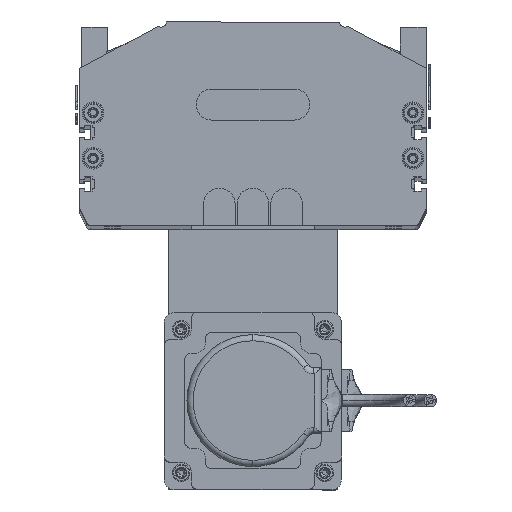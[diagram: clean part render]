
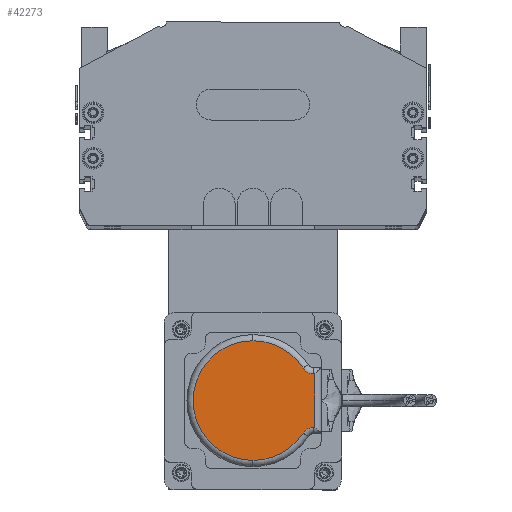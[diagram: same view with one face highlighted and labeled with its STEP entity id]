
A CAD part, top view. The second image highlights one B-rep face of the part: STEP entity #42273.
In plain terms, the highlighted planar face has unit normal (0, 0, 1).
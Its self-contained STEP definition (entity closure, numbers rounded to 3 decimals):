
#41313 = ORIENTED_EDGE ( 'NONE', *, *, #41856, .T. ) ;
#41333 = VERTEX_POINT ( 'NONE', #67001 ) ;
#41454 = EDGE_CURVE ( 'NONE', #41838, #41841, #67296, .T. ) ;
#41510 = EDGE_LOOP ( 'NONE', ( #41860, #41855, #41882, #41313, #41767, #41700, #41862, #41519 ) ) ;
#41519 = ORIENTED_EDGE ( 'NONE', *, *, #42502, .T. ) ;
#41563 = VERTEX_POINT ( 'NONE', #67592 ) ;
#41700 = ORIENTED_EDGE ( 'NONE', *, *, #41769, .T. ) ;
#41703 = EDGE_CURVE ( 'NONE', #42164, #41333, #67628, .T. ) ;
#41767 = ORIENTED_EDGE ( 'NONE', *, *, #41703, .F. ) ;
#41769 = EDGE_CURVE ( 'NONE', #42164, #41789, #67631, .T. ) ;
#41776 = VERTEX_POINT ( 'NONE', #67624 ) ;
#41789 = VERTEX_POINT ( 'NONE', #67632 ) ;
#41838 = VERTEX_POINT ( 'NONE', #67623 ) ;
#41841 = VERTEX_POINT ( 'NONE', #67674 ) ;
#41855 = ORIENTED_EDGE ( 'NONE', *, *, #41454, .T. ) ;
#41856 = EDGE_CURVE ( 'NONE', #42418, #41333, #67378, .T. ) ;
#41860 = ORIENTED_EDGE ( 'NONE', *, *, #41863, .F. ) ;
#41862 = ORIENTED_EDGE ( 'NONE', *, *, #42532, .T. ) ;
#41863 = EDGE_CURVE ( 'NONE', #41838, #41563, #67717, .T. ) ;
#41882 = ORIENTED_EDGE ( 'NONE', *, *, #42209, .T. ) ;
#42164 = VERTEX_POINT ( 'NONE', #67767 ) ;
#42209 = EDGE_CURVE ( 'NONE', #41841, #42418, #67851, .T. ) ;
#42273 = ADVANCED_FACE ( 'NONE', ( #67939 ), #67938, .T. ) ;
#42418 = VERTEX_POINT ( 'NONE', #68135 ) ;
#42502 = EDGE_CURVE ( 'NONE', #41776, #41563, #68272, .T. ) ;
#42532 = EDGE_CURVE ( 'NONE', #41789, #41776, #68322, .T. ) ;
#66856 = DIRECTION ( 'NONE',  ( 1., 0., 0. ) ) ;
#67001 = CARTESIAN_POINT ( 'NONE',  ( 48.743, 57.355, 26. ) ) ;
#67291 = DIRECTION ( 'NONE',  ( 1., 0., 0. ) ) ;
#67292 = DIRECTION ( 'NONE',  ( 0., 0., 1. ) ) ;
#67293 = CARTESIAN_POINT ( 'NONE',  ( 33., 33., 26. ) ) ;
#67295 = AXIS2_PLACEMENT_3D ( 'NONE', #67293, #67292, #67291 ) ;
#67296 = CIRCLE ( 'NONE', #67295, 29. ) ;
#67376 = DIRECTION ( 'NONE',  ( 0., 0., 1. ) ) ;
#67377 = AXIS2_PLACEMENT_3D ( 'NONE', #67379, #67376, #66856 ) ;
#67378 = CIRCLE ( 'NONE', #67377, 29. ) ;
#67379 = CARTESIAN_POINT ( 'NONE',  ( 33., 33., 26. ) ) ;
#67592 = CARTESIAN_POINT ( 'NONE',  ( 20., 62.394, 26. ) ) ;
#67623 = CARTESIAN_POINT ( 'NONE',  ( 17.257, 57.355, 26. ) ) ;
#67624 = CARTESIAN_POINT ( 'NONE',  ( 20., 63., 26. ) ) ;
#67625 = DIRECTION ( 'NONE',  ( 1., 0., 0. ) ) ;
#67626 = DIRECTION ( 'NONE',  ( 0., 0., 1. ) ) ;
#67627 = AXIS2_PLACEMENT_3D ( 'NONE', #67633, #67626, #67625 ) ;
#67628 = CIRCLE ( 'NONE', #67627, 6. ) ;
#67629 = DIRECTION ( 'NONE',  ( 0., 1., 0. ) ) ;
#67630 = CARTESIAN_POINT ( 'NONE',  ( 46., 33., 26. ) ) ;
#67631 = LINE ( 'NONE', #67630, #67688 ) ;
#67632 = CARTESIAN_POINT ( 'NONE',  ( 46., 63., 26. ) ) ;
#67633 = CARTESIAN_POINT ( 'NONE',  ( 52., 62.394, 26. ) ) ;
#67674 = CARTESIAN_POINT ( 'NONE',  ( 4., 33., 26. ) ) ;
#67688 = VECTOR ( 'NONE', #67629, 1000. ) ;
#67705 = DIRECTION ( 'NONE',  ( 1., 0., 0. ) ) ;
#67706 = DIRECTION ( 'NONE',  ( 0., 0., 1. ) ) ;
#67707 = CARTESIAN_POINT ( 'NONE',  ( 14., 62.394, 26. ) ) ;
#67708 = AXIS2_PLACEMENT_3D ( 'NONE', #67707, #67706, #67705 ) ;
#67717 = CIRCLE ( 'NONE', #67708, 6. ) ;
#67767 = CARTESIAN_POINT ( 'NONE',  ( 46., 62.394, 26. ) ) ;
#67851 = CIRCLE ( 'NONE', #67902, 29. ) ;
#67899 = DIRECTION ( 'NONE',  ( 1., 0., 0. ) ) ;
#67900 = DIRECTION ( 'NONE',  ( 0., 0., 1. ) ) ;
#67901 = CARTESIAN_POINT ( 'NONE',  ( 33., 33., 26. ) ) ;
#67902 = AXIS2_PLACEMENT_3D ( 'NONE', #67901, #67900, #67899 ) ;
#67935 = DIRECTION ( 'NONE',  ( 0., 0., 1. ) ) ;
#67938 = PLANE ( 'NONE',  #67984 ) ;
#67939 = FACE_OUTER_BOUND ( 'NONE', #41510, .T. ) ;
#67942 = CARTESIAN_POINT ( 'NONE',  ( 33., 33., 26. ) ) ;
#67982 = DIRECTION ( 'NONE',  ( 1., 0., 0. ) ) ;
#67984 = AXIS2_PLACEMENT_3D ( 'NONE', #67942, #67935, #67982 ) ;
#68135 = CARTESIAN_POINT ( 'NONE',  ( 62., 33., 26. ) ) ;
#68258 = DIRECTION ( 'NONE',  ( 0., -1., 0. ) ) ;
#68259 = VECTOR ( 'NONE', #68258, 1000. ) ;
#68271 = CARTESIAN_POINT ( 'NONE',  ( 20., 33., 26. ) ) ;
#68272 = LINE ( 'NONE', #68271, #68259 ) ;
#68320 = DIRECTION ( 'NONE',  ( -1., 0., 0. ) ) ;
#68321 = CARTESIAN_POINT ( 'NONE',  ( 17.5, 63., 26. ) ) ;
#68322 = LINE ( 'NONE', #68321, #68381 ) ;
#68381 = VECTOR ( 'NONE', #68320, 1000. ) ;
